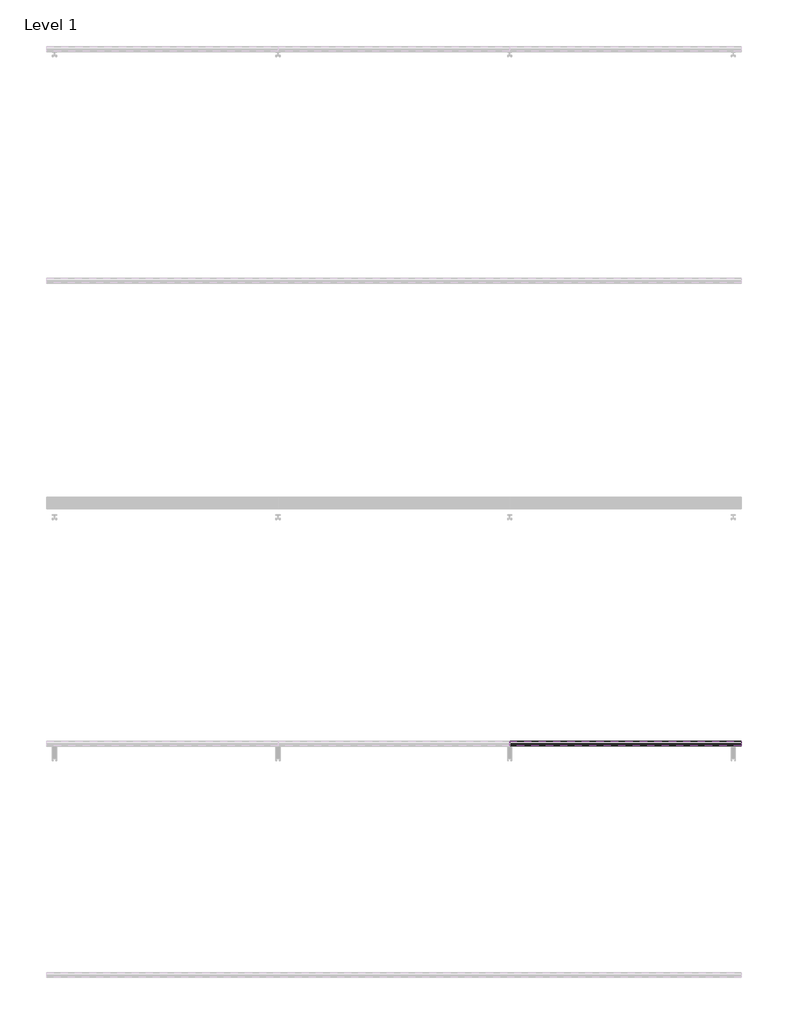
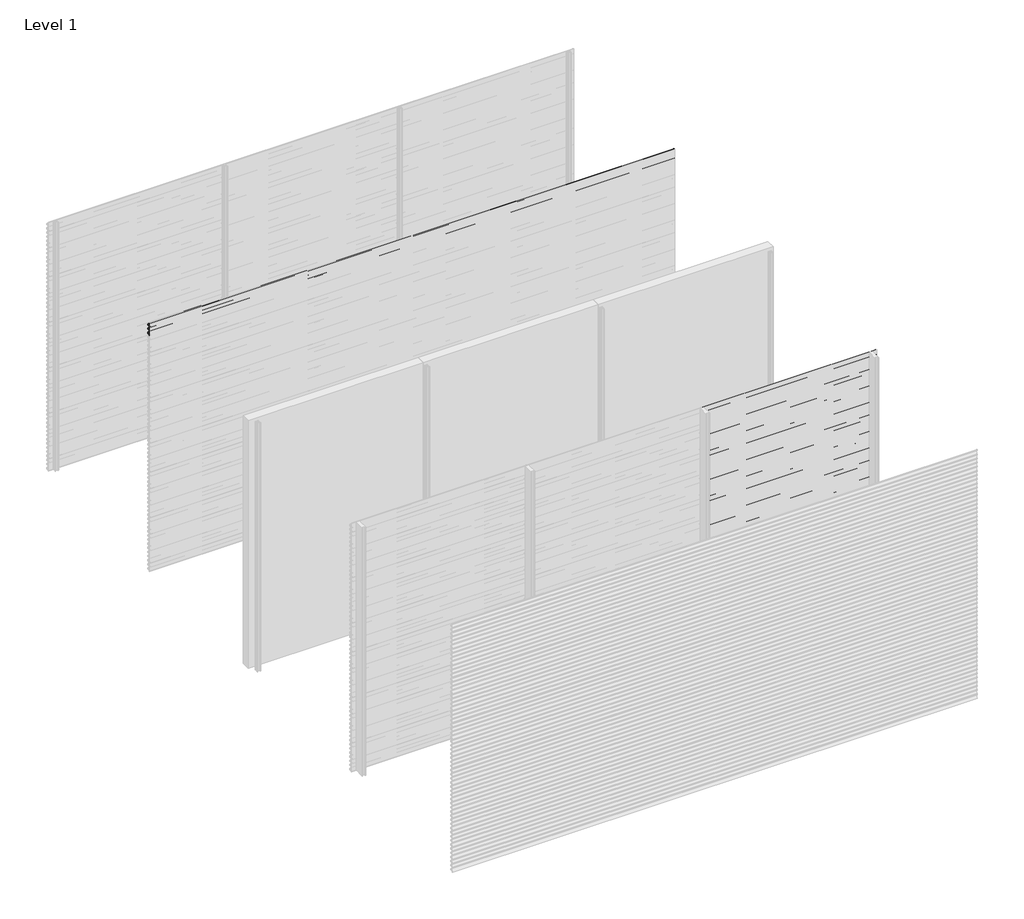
# One storey, part 9 of 38: 66 proxies.
"""IFC4 building model written with IfcOpenShell, lengths in millimetres."""

from ifc_helpers import new_model, si_unit, frame, origin, place, context, project, spatial, polyline, outline, extrude, element, save

model = new_model("IFC4")

# Units and contexts
model_context = context("Model", 3, world=origin())
ifc_project = project(units=[si_unit("LENGTHUNIT", "METRE", prefix="MILLI")], contexts=[model_context])

# Site, building, storey
site = spatial("IfcSite", under=ifc_project)
building = spatial("IfcBuilding", under=site)
storey = spatial("IfcBuildingStorey", under=building, Name="Level 1", Elevation=0.0)

# Proxies
placement = place(None, origin())
element("IfcBuildingElementProxy", 1, Name="Wall Sweeps", at=placement, inside=storey, context=model_context, shape_type="SweptSolid", body=[
    extrude(outline(polyline([(-43996.75, 3000.0), (-43996.75, 2989.19656), (-43974.6057113, 2976.4115489), (-43957.0, 2959.0472005), (-43957.0, 2944.0472005), (-43958.3, 2945.0268207), (-43958.3, 2958.5034593), (-43969.4914725, 2969.541504), (-43994.2797376, 2940.0), (-43995.9767671, 2940.0), (-43970.4200307, 2970.4573323), (-43975.3999793, 2975.3690091), (-43998.0, 2988.4171371), (-43998.0, 3000.0), (-43996.75, 3000.0)])), frame((0.0, 0.0, 0.0), z_axis=(1.0, 0.0, 0.0), x_axis=(0.0, 1.0, 0.0)), (0.0, 0.0, 1.0), 6000.0),
])
element("IfcBuildingElementProxy", 2, Name="Wall Sweeps", at=placement, inside=storey, context=model_context, shape_type="SweptSolid", body=[
    extrude(outline(polyline([(-43996.75, 2950.0), (-43996.75, 2939.19656), (-43974.6057113, 2926.4115489), (-43957.0, 2909.0472005), (-43957.0, 2894.0472005), (-43958.3, 2895.0268207), (-43958.3, 2908.5034593), (-43969.4914725, 2919.541504), (-43994.2797376, 2890.0), (-43995.9767671, 2890.0), (-43970.4200307, 2920.4573323), (-43975.3999793, 2925.3690091), (-43998.0, 2938.4171371), (-43998.0, 2950.0), (-43996.75, 2950.0)])), frame((0.0, 0.0, 0.0), z_axis=(1.0, 0.0, 0.0), x_axis=(0.0, 1.0, 0.0)), (0.0, 0.0, 1.0), 6000.0),
])
element("IfcBuildingElementProxy", 3, Name="Wall Sweeps", at=placement, inside=storey, context=model_context, shape_type="SweptSolid", body=[
    extrude(outline(polyline([(-43996.75, 2900.0), (-43996.75, 2889.19656), (-43974.6057113, 2876.4115489), (-43957.0, 2859.0472005), (-43957.0, 2844.0472005), (-43958.3, 2845.0268207), (-43958.3, 2858.5034593), (-43969.4914725, 2869.541504), (-43994.2797376, 2840.0), (-43995.9767671, 2840.0), (-43970.4200307, 2870.4573323), (-43975.3999793, 2875.3690091), (-43998.0, 2888.4171371), (-43998.0, 2900.0), (-43996.75, 2900.0)])), frame((0.0, 0.0, 0.0), z_axis=(1.0, 0.0, 0.0), x_axis=(0.0, 1.0, 0.0)), (0.0, 0.0, 1.0), 6000.0),
])
element("IfcBuildingElementProxy", 4, Name="Wall Sweeps", at=placement, inside=storey, context=model_context, shape_type="SweptSolid", body=[
    extrude(outline(polyline([(-47996.75, 150.0), (-47996.75, 139.19656), (-47974.6057113, 126.4115489), (-47957.0, 109.0472005), (-47957.0, 94.0472005), (-47958.3, 95.0268207), (-47958.3, 108.5034593), (-47969.4914725, 119.541504), (-47994.2797376, 90.0), (-47995.9767671, 90.0), (-47970.4200307, 120.4573323), (-47975.3999793, 125.3690091), (-47998.0, 138.4171371), (-47998.0, 150.0), (-47996.75, 150.0)])), frame((2000.0, 0.0, 0.0), z_axis=(1.0, 0.0, 0.0), x_axis=(0.0, 1.0, 0.0)), (0.0, 0.0, 1.0), 2000.0),
])
element("IfcBuildingElementProxy", 5, Name="Wall Sweeps", at=placement, inside=storey, context=model_context, shape_type="SweptSolid", body=[
    extrude(outline(polyline([(-47996.75, 100.0), (-47996.75, 89.19656), (-47974.6057113, 76.4115489), (-47957.0, 59.0472005), (-47957.0, 44.0472005), (-47958.3, 45.0268207), (-47958.3, 58.5034593), (-47969.4914725, 69.541504), (-47994.2797376, 40.0), (-47995.9767671, 40.0), (-47970.4200307, 70.4573323), (-47975.3999793, 75.3690091), (-47998.0, 88.4171371), (-47998.0, 100.0), (-47996.75, 100.0)])), frame((2000.0, 0.0, 0.0), z_axis=(1.0, 0.0, 0.0), x_axis=(0.0, 1.0, 0.0)), (0.0, 0.0, 1.0), 2000.0),
])
element("IfcBuildingElementProxy", 6, Name="Wall Sweeps", at=placement, inside=storey, context=model_context, shape_type="SweptSolid", body=[
    extrude(outline(polyline([(-47996.75, 50.0), (-47996.75, 39.19656), (-47974.6057113, 26.4115489), (-47957.0, 9.0472005), (-47957.0, -5.9527995), (-47958.3, -4.9731793), (-47958.3, 8.5034593), (-47969.4914725, 19.541504), (-47994.2797376, -10.0), (-47995.9767671, -10.0), (-47970.4200307, 20.4573323), (-47975.3999793, 25.3690091), (-47998.0, 38.4171371), (-47998.0, 50.0), (-47996.75, 50.0)])), frame((2000.0, 0.0, 0.0), z_axis=(1.0, 0.0, 0.0), x_axis=(0.0, 1.0, 0.0)), (0.0, 0.0, 1.0), 2000.0),
])
element("IfcBuildingElementProxy", 7, Name="Wall Sweeps", at=placement, inside=storey, context=model_context, shape_type="SweptSolid", body=[
    extrude(outline(polyline([(-47996.75, 3000.0), (-47996.75, 2989.19656), (-47974.6057113, 2976.4115489), (-47957.0, 2959.0472005), (-47957.0, 2944.0472005), (-47958.3, 2945.0268207), (-47958.3, 2958.5034593), (-47969.4914725, 2969.541504), (-47994.2797376, 2940.0), (-47995.9767671, 2940.0), (-47970.4200307, 2970.4573323), (-47975.3999793, 2975.3690091), (-47998.0, 2988.4171371), (-47998.0, 3000.0), (-47996.75, 3000.0)])), frame((4000.0, 0.0, 0.0), z_axis=(1.0, 0.0, 0.0), x_axis=(0.0, 1.0, 0.0)), (0.0, 0.0, 1.0), 2000.0),
])
element("IfcBuildingElementProxy", 8, Name="Wall Sweeps", at=placement, inside=storey, context=model_context, shape_type="SweptSolid", body=[
    extrude(outline(polyline([(-47996.75, 2950.0), (-47996.75, 2939.19656), (-47974.6057113, 2926.4115489), (-47957.0, 2909.0472005), (-47957.0, 2894.0472005), (-47958.3, 2895.0268207), (-47958.3, 2908.5034593), (-47969.4914725, 2919.541504), (-47994.2797376, 2890.0), (-47995.9767671, 2890.0), (-47970.4200307, 2920.4573323), (-47975.3999793, 2925.3690091), (-47998.0, 2938.4171371), (-47998.0, 2950.0), (-47996.75, 2950.0)])), frame((4000.0, 0.0, 0.0), z_axis=(1.0, 0.0, 0.0), x_axis=(0.0, 1.0, 0.0)), (0.0, 0.0, 1.0), 2000.0),
])
element("IfcBuildingElementProxy", 9, Name="Wall Sweeps", at=placement, inside=storey, context=model_context, shape_type="SweptSolid", body=[
    extrude(outline(polyline([(-47996.75, 2900.0), (-47996.75, 2889.19656), (-47974.6057113, 2876.4115489), (-47957.0, 2859.0472005), (-47957.0, 2844.0472005), (-47958.3, 2845.0268207), (-47958.3, 2858.5034593), (-47969.4914725, 2869.541504), (-47994.2797376, 2840.0), (-47995.9767671, 2840.0), (-47970.4200307, 2870.4573323), (-47975.3999793, 2875.3690091), (-47998.0, 2888.4171371), (-47998.0, 2900.0), (-47996.75, 2900.0)])), frame((4000.0, 0.0, 0.0), z_axis=(1.0, 0.0, 0.0), x_axis=(0.0, 1.0, 0.0)), (0.0, 0.0, 1.0), 2000.0),
])
element("IfcBuildingElementProxy", 10, Name="Wall Sweeps", at=placement, inside=storey, context=model_context, shape_type="SweptSolid", body=[
    extrude(outline(polyline([(-47996.75, 2850.0), (-47996.75, 2839.19656), (-47974.6057113, 2826.4115489), (-47957.0, 2809.0472005), (-47957.0, 2794.0472005), (-47958.3, 2795.0268207), (-47958.3, 2808.5034593), (-47969.4914725, 2819.541504), (-47994.2797376, 2790.0), (-47995.9767671, 2790.0), (-47970.4200307, 2820.4573323), (-47975.3999793, 2825.3690091), (-47998.0, 2838.4171371), (-47998.0, 2850.0), (-47996.75, 2850.0)])), frame((4000.0, 0.0, 0.0), z_axis=(1.0, 0.0, 0.0), x_axis=(0.0, 1.0, 0.0)), (0.0, 0.0, 1.0), 2000.0),
])
element("IfcBuildingElementProxy", 11, Name="Wall Sweeps", at=placement, inside=storey, context=model_context, shape_type="SweptSolid", body=[
    extrude(outline(polyline([(-47996.75, 2800.0), (-47996.75, 2789.19656), (-47974.6057113, 2776.4115489), (-47957.0, 2759.0472005), (-47957.0, 2744.0472005), (-47958.3, 2745.0268207), (-47958.3, 2758.5034593), (-47969.4914725, 2769.541504), (-47994.2797376, 2740.0), (-47995.9767671, 2740.0), (-47970.4200307, 2770.4573323), (-47975.3999793, 2775.3690091), (-47998.0, 2788.4171371), (-47998.0, 2800.0), (-47996.75, 2800.0)])), frame((4000.0, 0.0, 0.0), z_axis=(1.0, 0.0, 0.0), x_axis=(0.0, 1.0, 0.0)), (0.0, 0.0, 1.0), 2000.0),
])
element("IfcBuildingElementProxy", 12, Name="Wall Sweeps", at=placement, inside=storey, context=model_context, shape_type="SweptSolid", body=[
    extrude(outline(polyline([(-47996.75, 2750.0), (-47996.75, 2739.19656), (-47974.6057113, 2726.4115489), (-47957.0, 2709.0472005), (-47957.0, 2694.0472005), (-47958.3, 2695.0268207), (-47958.3, 2708.5034593), (-47969.4914725, 2719.541504), (-47994.2797376, 2690.0), (-47995.9767671, 2690.0), (-47970.4200307, 2720.4573323), (-47975.3999793, 2725.3690091), (-47998.0, 2738.4171371), (-47998.0, 2750.0), (-47996.75, 2750.0)])), frame((4000.0, 0.0, 0.0), z_axis=(1.0, 0.0, 0.0), x_axis=(0.0, 1.0, 0.0)), (0.0, 0.0, 1.0), 2000.0),
])
element("IfcBuildingElementProxy", 13, Name="Wall Sweeps", at=placement, inside=storey, context=model_context, shape_type="SweptSolid", body=[
    extrude(outline(polyline([(-47996.75, 2700.0), (-47996.75, 2689.19656), (-47974.6057113, 2676.4115489), (-47957.0, 2659.0472005), (-47957.0, 2644.0472005), (-47958.3, 2645.0268207), (-47958.3, 2658.5034593), (-47969.4914725, 2669.541504), (-47994.2797376, 2640.0), (-47995.9767671, 2640.0), (-47970.4200307, 2670.4573323), (-47975.3999793, 2675.3690091), (-47998.0, 2688.4171371), (-47998.0, 2700.0), (-47996.75, 2700.0)])), frame((4000.0, 0.0, 0.0), z_axis=(1.0, 0.0, 0.0), x_axis=(0.0, 1.0, 0.0)), (0.0, 0.0, 1.0), 2000.0),
])
element("IfcBuildingElementProxy", 14, Name="Wall Sweeps", at=placement, inside=storey, context=model_context, shape_type="SweptSolid", body=[
    extrude(outline(polyline([(-47996.75, 2650.0), (-47996.75, 2639.19656), (-47974.6057113, 2626.4115489), (-47957.0, 2609.0472005), (-47957.0, 2594.0472005), (-47958.3, 2595.0268207), (-47958.3, 2608.5034593), (-47969.4914725, 2619.541504), (-47994.2797376, 2590.0), (-47995.9767671, 2590.0), (-47970.4200307, 2620.4573323), (-47975.3999793, 2625.3690091), (-47998.0, 2638.4171371), (-47998.0, 2650.0), (-47996.75, 2650.0)])), frame((4000.0, 0.0, 0.0), z_axis=(1.0, 0.0, 0.0), x_axis=(0.0, 1.0, 0.0)), (0.0, 0.0, 1.0), 2000.0),
])
element("IfcBuildingElementProxy", 15, Name="Wall Sweeps", at=placement, inside=storey, context=model_context, shape_type="SweptSolid", body=[
    extrude(outline(polyline([(-47996.75, 2600.0), (-47996.75, 2589.19656), (-47974.6057113, 2576.4115489), (-47957.0, 2559.0472005), (-47957.0, 2544.0472005), (-47958.3, 2545.0268207), (-47958.3, 2558.5034593), (-47969.4914725, 2569.541504), (-47994.2797376, 2540.0), (-47995.9767671, 2540.0), (-47970.4200307, 2570.4573323), (-47975.3999793, 2575.3690091), (-47998.0, 2588.4171371), (-47998.0, 2600.0), (-47996.75, 2600.0)])), frame((4000.0, 0.0, 0.0), z_axis=(1.0, 0.0, 0.0), x_axis=(0.0, 1.0, 0.0)), (0.0, 0.0, 1.0), 2000.0),
])
element("IfcBuildingElementProxy", 16, Name="Wall Sweeps", at=placement, inside=storey, context=model_context, shape_type="SweptSolid", body=[
    extrude(outline(polyline([(-47996.75, 2550.0), (-47996.75, 2539.19656), (-47974.6057113, 2526.4115489), (-47957.0, 2509.0472005), (-47957.0, 2494.0472005), (-47958.3, 2495.0268207), (-47958.3, 2508.5034593), (-47969.4914725, 2519.541504), (-47994.2797376, 2490.0), (-47995.9767671, 2490.0), (-47970.4200307, 2520.4573323), (-47975.3999793, 2525.3690091), (-47998.0, 2538.4171371), (-47998.0, 2550.0), (-47996.75, 2550.0)])), frame((4000.0, 0.0, 0.0), z_axis=(1.0, 0.0, 0.0), x_axis=(0.0, 1.0, 0.0)), (0.0, 0.0, 1.0), 2000.0),
])
element("IfcBuildingElementProxy", 17, Name="Wall Sweeps", at=placement, inside=storey, context=model_context, shape_type="SweptSolid", body=[
    extrude(outline(polyline([(-47996.75, 2500.0), (-47996.75, 2489.19656), (-47974.6057113, 2476.4115489), (-47957.0, 2459.0472005), (-47957.0, 2444.0472005), (-47958.3, 2445.0268207), (-47958.3, 2458.5034593), (-47969.4914725, 2469.541504), (-47994.2797376, 2440.0), (-47995.9767671, 2440.0), (-47970.4200307, 2470.4573323), (-47975.3999793, 2475.3690091), (-47998.0, 2488.4171371), (-47998.0, 2500.0), (-47996.75, 2500.0)])), frame((4000.0, 0.0, 0.0), z_axis=(1.0, 0.0, 0.0), x_axis=(0.0, 1.0, 0.0)), (0.0, 0.0, 1.0), 2000.0),
])
element("IfcBuildingElementProxy", 18, Name="Wall Sweeps", at=placement, inside=storey, context=model_context, shape_type="SweptSolid", body=[
    extrude(outline(polyline([(-47996.75, 2450.0), (-47996.75, 2439.19656), (-47974.6057113, 2426.4115489), (-47957.0, 2409.0472005), (-47957.0, 2394.0472005), (-47958.3, 2395.0268207), (-47958.3, 2408.5034593), (-47969.4914725, 2419.541504), (-47994.2797376, 2390.0), (-47995.9767671, 2390.0), (-47970.4200307, 2420.4573323), (-47975.3999793, 2425.3690091), (-47998.0, 2438.4171371), (-47998.0, 2450.0), (-47996.75, 2450.0)])), frame((4000.0, 0.0, 0.0), z_axis=(1.0, 0.0, 0.0), x_axis=(0.0, 1.0, 0.0)), (0.0, 0.0, 1.0), 2000.0),
])
element("IfcBuildingElementProxy", 19, Name="Wall Sweeps", at=placement, inside=storey, context=model_context, shape_type="SweptSolid", body=[
    extrude(outline(polyline([(-47996.75, 2400.0), (-47996.75, 2389.19656), (-47974.6057113, 2376.4115489), (-47957.0, 2359.0472005), (-47957.0, 2344.0472005), (-47958.3, 2345.0268207), (-47958.3, 2358.5034593), (-47969.4914725, 2369.541504), (-47994.2797376, 2340.0), (-47995.9767671, 2340.0), (-47970.4200307, 2370.4573323), (-47975.3999793, 2375.3690091), (-47998.0, 2388.4171371), (-47998.0, 2400.0), (-47996.75, 2400.0)])), frame((4000.0, 0.0, 0.0), z_axis=(1.0, 0.0, 0.0), x_axis=(0.0, 1.0, 0.0)), (0.0, 0.0, 1.0), 2000.0),
])
element("IfcBuildingElementProxy", 20, Name="Wall Sweeps", at=placement, inside=storey, context=model_context, shape_type="SweptSolid", body=[
    extrude(outline(polyline([(-47996.75, 2350.0), (-47996.75, 2339.19656), (-47974.6057113, 2326.4115489), (-47957.0, 2309.0472005), (-47957.0, 2294.0472005), (-47958.3, 2295.0268207), (-47958.3, 2308.5034593), (-47969.4914725, 2319.541504), (-47994.2797376, 2290.0), (-47995.9767671, 2290.0), (-47970.4200307, 2320.4573323), (-47975.3999793, 2325.3690091), (-47998.0, 2338.4171371), (-47998.0, 2350.0), (-47996.75, 2350.0)])), frame((4000.0, 0.0, 0.0), z_axis=(1.0, 0.0, 0.0), x_axis=(0.0, 1.0, 0.0)), (0.0, 0.0, 1.0), 2000.0),
])
element("IfcBuildingElementProxy", 21, Name="Wall Sweeps", at=placement, inside=storey, context=model_context, shape_type="SweptSolid", body=[
    extrude(outline(polyline([(-47996.75, 2300.0), (-47996.75, 2289.19656), (-47974.6057113, 2276.4115489), (-47957.0, 2259.0472005), (-47957.0, 2244.0472005), (-47958.3, 2245.0268207), (-47958.3, 2258.5034593), (-47969.4914725, 2269.541504), (-47994.2797376, 2240.0), (-47995.9767671, 2240.0), (-47970.4200307, 2270.4573323), (-47975.3999793, 2275.3690091), (-47998.0, 2288.4171371), (-47998.0, 2300.0), (-47996.75, 2300.0)])), frame((4000.0, 0.0, 0.0), z_axis=(1.0, 0.0, 0.0), x_axis=(0.0, 1.0, 0.0)), (0.0, 0.0, 1.0), 2000.0),
])
element("IfcBuildingElementProxy", 22, Name="Wall Sweeps", at=placement, inside=storey, context=model_context, shape_type="SweptSolid", body=[
    extrude(outline(polyline([(-47996.75, 2250.0), (-47996.75, 2239.19656), (-47974.6057113, 2226.4115489), (-47957.0, 2209.0472005), (-47957.0, 2194.0472005), (-47958.3, 2195.0268207), (-47958.3, 2208.5034593), (-47969.4914725, 2219.541504), (-47994.2797376, 2190.0), (-47995.9767671, 2190.0), (-47970.4200307, 2220.4573323), (-47975.3999793, 2225.3690091), (-47998.0, 2238.4171371), (-47998.0, 2250.0), (-47996.75, 2250.0)])), frame((4000.0, 0.0, 0.0), z_axis=(1.0, 0.0, 0.0), x_axis=(0.0, 1.0, 0.0)), (0.0, 0.0, 1.0), 2000.0),
])
element("IfcBuildingElementProxy", 23, Name="Wall Sweeps", at=placement, inside=storey, context=model_context, shape_type="SweptSolid", body=[
    extrude(outline(polyline([(-47996.75, 2200.0), (-47996.75, 2189.19656), (-47974.6057113, 2176.4115489), (-47957.0, 2159.0472005), (-47957.0, 2144.0472005), (-47958.3, 2145.0268207), (-47958.3, 2158.5034593), (-47969.4914725, 2169.541504), (-47994.2797376, 2140.0), (-47995.9767671, 2140.0), (-47970.4200307, 2170.4573323), (-47975.3999793, 2175.3690091), (-47998.0, 2188.4171371), (-47998.0, 2200.0), (-47996.75, 2200.0)])), frame((4000.0, 0.0, 0.0), z_axis=(1.0, 0.0, 0.0), x_axis=(0.0, 1.0, 0.0)), (0.0, 0.0, 1.0), 2000.0),
])
element("IfcBuildingElementProxy", 24, Name="Wall Sweeps", at=placement, inside=storey, context=model_context, shape_type="SweptSolid", body=[
    extrude(outline(polyline([(-47996.75, 2150.0), (-47996.75, 2139.19656), (-47974.6057113, 2126.4115489), (-47957.0, 2109.0472005), (-47957.0, 2094.0472005), (-47958.3, 2095.0268207), (-47958.3, 2108.5034593), (-47969.4914725, 2119.541504), (-47994.2797376, 2090.0), (-47995.9767671, 2090.0), (-47970.4200307, 2120.4573323), (-47975.3999793, 2125.3690091), (-47998.0, 2138.4171371), (-47998.0, 2150.0), (-47996.75, 2150.0)])), frame((4000.0, 0.0, 0.0), z_axis=(1.0, 0.0, 0.0), x_axis=(0.0, 1.0, 0.0)), (0.0, 0.0, 1.0), 2000.0),
])
element("IfcBuildingElementProxy", 25, Name="Wall Sweeps", at=placement, inside=storey, context=model_context, shape_type="SweptSolid", body=[
    extrude(outline(polyline([(-47996.75, 2100.0), (-47996.75, 2089.19656), (-47974.6057113, 2076.4115489), (-47957.0, 2059.0472005), (-47957.0, 2044.0472005), (-47958.3, 2045.0268207), (-47958.3, 2058.5034593), (-47969.4914725, 2069.541504), (-47994.2797376, 2040.0), (-47995.9767671, 2040.0), (-47970.4200307, 2070.4573323), (-47975.3999793, 2075.3690091), (-47998.0, 2088.4171371), (-47998.0, 2100.0), (-47996.75, 2100.0)])), frame((4000.0, 0.0, 0.0), z_axis=(1.0, 0.0, 0.0), x_axis=(0.0, 1.0, 0.0)), (0.0, 0.0, 1.0), 2000.0),
])
element("IfcBuildingElementProxy", 26, Name="Wall Sweeps", at=placement, inside=storey, context=model_context, shape_type="SweptSolid", body=[
    extrude(outline(polyline([(-47996.75, 2050.0), (-47996.75, 2039.19656), (-47974.6057113, 2026.4115489), (-47957.0, 2009.0472005), (-47957.0, 1994.0472005), (-47958.3, 1995.0268207), (-47958.3, 2008.5034593), (-47969.4914725, 2019.541504), (-47994.2797376, 1990.0), (-47995.9767671, 1990.0), (-47970.4200307, 2020.4573323), (-47975.3999793, 2025.3690091), (-47998.0, 2038.4171371), (-47998.0, 2050.0), (-47996.75, 2050.0)])), frame((4000.0, 0.0, 0.0), z_axis=(1.0, 0.0, 0.0), x_axis=(0.0, 1.0, 0.0)), (0.0, 0.0, 1.0), 2000.0),
])
element("IfcBuildingElementProxy", 27, Name="Wall Sweeps", at=placement, inside=storey, context=model_context, shape_type="SweptSolid", body=[
    extrude(outline(polyline([(-47996.75, 2000.0), (-47996.75, 1989.19656), (-47974.6057113, 1976.4115489), (-47957.0, 1959.0472005), (-47957.0, 1944.0472005), (-47958.3, 1945.0268207), (-47958.3, 1958.5034593), (-47969.4914725, 1969.541504), (-47994.2797376, 1940.0), (-47995.9767671, 1940.0), (-47970.4200307, 1970.4573323), (-47975.3999793, 1975.3690091), (-47998.0, 1988.4171371), (-47998.0, 2000.0), (-47996.75, 2000.0)])), frame((4000.0, 0.0, 0.0), z_axis=(1.0, 0.0, 0.0), x_axis=(0.0, 1.0, 0.0)), (0.0, 0.0, 1.0), 2000.0),
])
element("IfcBuildingElementProxy", 28, Name="Wall Sweeps", at=placement, inside=storey, context=model_context, shape_type="SweptSolid", body=[
    extrude(outline(polyline([(-47996.75, 1950.0), (-47996.75, 1939.19656), (-47974.6057113, 1926.4115489), (-47957.0, 1909.0472005), (-47957.0, 1894.0472005), (-47958.3, 1895.0268207), (-47958.3, 1908.5034593), (-47969.4914725, 1919.541504), (-47994.2797376, 1890.0), (-47995.9767671, 1890.0), (-47970.4200307, 1920.4573323), (-47975.3999793, 1925.3690091), (-47998.0, 1938.4171371), (-47998.0, 1950.0), (-47996.75, 1950.0)])), frame((4000.0, 0.0, 0.0), z_axis=(1.0, 0.0, 0.0), x_axis=(0.0, 1.0, 0.0)), (0.0, 0.0, 1.0), 2000.0),
])
element("IfcBuildingElementProxy", 29, Name="Wall Sweeps", at=placement, inside=storey, context=model_context, shape_type="SweptSolid", body=[
    extrude(outline(polyline([(-47996.75, 1900.0), (-47996.75, 1889.19656), (-47974.6057113, 1876.4115489), (-47957.0, 1859.0472005), (-47957.0, 1844.0472005), (-47958.3, 1845.0268207), (-47958.3, 1858.5034593), (-47969.4914725, 1869.541504), (-47994.2797376, 1840.0), (-47995.9767671, 1840.0), (-47970.4200307, 1870.4573323), (-47975.3999793, 1875.3690091), (-47998.0, 1888.4171371), (-47998.0, 1900.0), (-47996.75, 1900.0)])), frame((4000.0, 0.0, 0.0), z_axis=(1.0, 0.0, 0.0), x_axis=(0.0, 1.0, 0.0)), (0.0, 0.0, 1.0), 2000.0),
])
element("IfcBuildingElementProxy", 30, Name="Wall Sweeps", at=placement, inside=storey, context=model_context, shape_type="SweptSolid", body=[
    extrude(outline(polyline([(-47996.75, 1850.0), (-47996.75, 1839.19656), (-47974.6057113, 1826.4115489), (-47957.0, 1809.0472005), (-47957.0, 1794.0472005), (-47958.3, 1795.0268207), (-47958.3, 1808.5034593), (-47969.4914725, 1819.541504), (-47994.2797376, 1790.0), (-47995.9767671, 1790.0), (-47970.4200307, 1820.4573323), (-47975.3999793, 1825.3690091), (-47998.0, 1838.4171371), (-47998.0, 1850.0), (-47996.75, 1850.0)])), frame((4000.0, 0.0, 0.0), z_axis=(1.0, 0.0, 0.0), x_axis=(0.0, 1.0, 0.0)), (0.0, 0.0, 1.0), 2000.0),
])
element("IfcBuildingElementProxy", 31, Name="Wall Sweeps", at=placement, inside=storey, context=model_context, shape_type="SweptSolid", body=[
    extrude(outline(polyline([(-47996.75, 1800.0), (-47996.75, 1789.19656), (-47974.6057113, 1776.4115489), (-47957.0, 1759.0472005), (-47957.0, 1744.0472005), (-47958.3, 1745.0268207), (-47958.3, 1758.5034593), (-47969.4914725, 1769.541504), (-47994.2797376, 1740.0), (-47995.9767671, 1740.0), (-47970.4200307, 1770.4573323), (-47975.3999793, 1775.3690091), (-47998.0, 1788.4171371), (-47998.0, 1800.0), (-47996.75, 1800.0)])), frame((4000.0, 0.0, 0.0), z_axis=(1.0, 0.0, 0.0), x_axis=(0.0, 1.0, 0.0)), (0.0, 0.0, 1.0), 2000.0),
])
element("IfcBuildingElementProxy", 32, Name="Wall Sweeps", at=placement, inside=storey, context=model_context, shape_type="SweptSolid", body=[
    extrude(outline(polyline([(-47996.75, 1750.0), (-47996.75, 1739.19656), (-47974.6057113, 1726.4115489), (-47957.0, 1709.0472005), (-47957.0, 1694.0472005), (-47958.3, 1695.0268207), (-47958.3, 1708.5034593), (-47969.4914725, 1719.541504), (-47994.2797376, 1690.0), (-47995.9767671, 1690.0), (-47970.4200307, 1720.4573323), (-47975.3999793, 1725.3690091), (-47998.0, 1738.4171371), (-47998.0, 1750.0), (-47996.75, 1750.0)])), frame((4000.0, 0.0, 0.0), z_axis=(1.0, 0.0, 0.0), x_axis=(0.0, 1.0, 0.0)), (0.0, 0.0, 1.0), 2000.0),
])
element("IfcBuildingElementProxy", 33, Name="Wall Sweeps", at=placement, inside=storey, context=model_context, shape_type="SweptSolid", body=[
    extrude(outline(polyline([(-47996.75, 1700.0), (-47996.75, 1689.19656), (-47974.6057113, 1676.4115489), (-47957.0, 1659.0472005), (-47957.0, 1644.0472005), (-47958.3, 1645.0268207), (-47958.3, 1658.5034593), (-47969.4914725, 1669.541504), (-47994.2797376, 1640.0), (-47995.9767671, 1640.0), (-47970.4200307, 1670.4573323), (-47975.3999793, 1675.3690091), (-47998.0, 1688.4171371), (-47998.0, 1700.0), (-47996.75, 1700.0)])), frame((4000.0, 0.0, 0.0), z_axis=(1.0, 0.0, 0.0), x_axis=(0.0, 1.0, 0.0)), (0.0, 0.0, 1.0), 2000.0),
])
element("IfcBuildingElementProxy", 34, Name="Wall Sweeps", at=placement, inside=storey, context=model_context, shape_type="SweptSolid", body=[
    extrude(outline(polyline([(-47996.75, 1650.0), (-47996.75, 1639.19656), (-47974.6057113, 1626.4115489), (-47957.0, 1609.0472005), (-47957.0, 1594.0472005), (-47958.3, 1595.0268207), (-47958.3, 1608.5034593), (-47969.4914725, 1619.541504), (-47994.2797376, 1590.0), (-47995.9767671, 1590.0), (-47970.4200307, 1620.4573323), (-47975.3999793, 1625.3690091), (-47998.0, 1638.4171371), (-47998.0, 1650.0), (-47996.75, 1650.0)])), frame((4000.0, 0.0, 0.0), z_axis=(1.0, 0.0, 0.0), x_axis=(0.0, 1.0, 0.0)), (0.0, 0.0, 1.0), 2000.0),
])
element("IfcBuildingElementProxy", 35, Name="Wall Sweeps", at=placement, inside=storey, context=model_context, shape_type="SweptSolid", body=[
    extrude(outline(polyline([(-47996.75, 1600.0), (-47996.75, 1589.19656), (-47974.6057113, 1576.4115489), (-47957.0, 1559.0472005), (-47957.0, 1544.0472005), (-47958.3, 1545.0268207), (-47958.3, 1558.5034593), (-47969.4914725, 1569.541504), (-47994.2797376, 1540.0), (-47995.9767671, 1540.0), (-47970.4200307, 1570.4573323), (-47975.3999793, 1575.3690091), (-47998.0, 1588.4171371), (-47998.0, 1600.0), (-47996.75, 1600.0)])), frame((4000.0, 0.0, 0.0), z_axis=(1.0, 0.0, 0.0), x_axis=(0.0, 1.0, 0.0)), (0.0, 0.0, 1.0), 2000.0),
])
element("IfcBuildingElementProxy", 36, Name="Wall Sweeps", at=placement, inside=storey, context=model_context, shape_type="SweptSolid", body=[
    extrude(outline(polyline([(-47996.75, 1550.0), (-47996.75, 1539.19656), (-47974.6057113, 1526.4115489), (-47957.0, 1509.0472005), (-47957.0, 1494.0472005), (-47958.3, 1495.0268207), (-47958.3, 1508.5034593), (-47969.4914725, 1519.541504), (-47994.2797376, 1490.0), (-47995.9767671, 1490.0), (-47970.4200307, 1520.4573323), (-47975.3999793, 1525.3690091), (-47998.0, 1538.4171371), (-47998.0, 1550.0), (-47996.75, 1550.0)])), frame((4000.0, 0.0, 0.0), z_axis=(1.0, 0.0, 0.0), x_axis=(0.0, 1.0, 0.0)), (0.0, 0.0, 1.0), 2000.0),
])
element("IfcBuildingElementProxy", 37, Name="Wall Sweeps", at=placement, inside=storey, context=model_context, shape_type="SweptSolid", body=[
    extrude(outline(polyline([(-47996.75, 1500.0), (-47996.75, 1489.19656), (-47974.6057113, 1476.4115489), (-47957.0, 1459.0472005), (-47957.0, 1444.0472005), (-47958.3, 1445.0268207), (-47958.3, 1458.5034593), (-47969.4914725, 1469.541504), (-47994.2797376, 1440.0), (-47995.9767671, 1440.0), (-47970.4200307, 1470.4573323), (-47975.3999793, 1475.3690091), (-47998.0, 1488.4171371), (-47998.0, 1500.0), (-47996.75, 1500.0)])), frame((4000.0, 0.0, 0.0), z_axis=(1.0, 0.0, 0.0), x_axis=(0.0, 1.0, 0.0)), (0.0, 0.0, 1.0), 2000.0),
])
element("IfcBuildingElementProxy", 38, Name="Wall Sweeps", at=placement, inside=storey, context=model_context, shape_type="SweptSolid", body=[
    extrude(outline(polyline([(-47996.75, 1450.0), (-47996.75, 1439.19656), (-47974.6057113, 1426.4115489), (-47957.0, 1409.0472005), (-47957.0, 1394.0472005), (-47958.3, 1395.0268207), (-47958.3, 1408.5034593), (-47969.4914725, 1419.541504), (-47994.2797376, 1390.0), (-47995.9767671, 1390.0), (-47970.4200307, 1420.4573323), (-47975.3999793, 1425.3690091), (-47998.0, 1438.4171371), (-47998.0, 1450.0), (-47996.75, 1450.0)])), frame((4000.0, 0.0, 0.0), z_axis=(1.0, 0.0, 0.0), x_axis=(0.0, 1.0, 0.0)), (0.0, 0.0, 1.0), 2000.0),
])
element("IfcBuildingElementProxy", 39, Name="Wall Sweeps", at=placement, inside=storey, context=model_context, shape_type="SweptSolid", body=[
    extrude(outline(polyline([(-47996.75, 1400.0), (-47996.75, 1389.19656), (-47974.6057113, 1376.4115489), (-47957.0, 1359.0472005), (-47957.0, 1344.0472005), (-47958.3, 1345.0268207), (-47958.3, 1358.5034593), (-47969.4914725, 1369.541504), (-47994.2797376, 1340.0), (-47995.9767671, 1340.0), (-47970.4200307, 1370.4573323), (-47975.3999793, 1375.3690091), (-47998.0, 1388.4171371), (-47998.0, 1400.0), (-47996.75, 1400.0)])), frame((4000.0, 0.0, 0.0), z_axis=(1.0, 0.0, 0.0), x_axis=(0.0, 1.0, 0.0)), (0.0, 0.0, 1.0), 2000.0),
])
element("IfcBuildingElementProxy", 40, Name="Wall Sweeps", at=placement, inside=storey, context=model_context, shape_type="SweptSolid", body=[
    extrude(outline(polyline([(-47996.75, 1350.0), (-47996.75, 1339.19656), (-47974.6057113, 1326.4115489), (-47957.0, 1309.0472005), (-47957.0, 1294.0472005), (-47958.3, 1295.0268207), (-47958.3, 1308.5034593), (-47969.4914725, 1319.541504), (-47994.2797376, 1290.0), (-47995.9767671, 1290.0), (-47970.4200307, 1320.4573323), (-47975.3999793, 1325.3690091), (-47998.0, 1338.4171371), (-47998.0, 1350.0), (-47996.75, 1350.0)])), frame((4000.0, 0.0, 0.0), z_axis=(1.0, 0.0, 0.0), x_axis=(0.0, 1.0, 0.0)), (0.0, 0.0, 1.0), 2000.0),
])
element("IfcBuildingElementProxy", 41, Name="Wall Sweeps", at=placement, inside=storey, context=model_context, shape_type="SweptSolid", body=[
    extrude(outline(polyline([(-47996.75, 1300.0), (-47996.75, 1289.19656), (-47974.6057113, 1276.4115489), (-47957.0, 1259.0472005), (-47957.0, 1244.0472005), (-47958.3, 1245.0268207), (-47958.3, 1258.5034593), (-47969.4914725, 1269.541504), (-47994.2797376, 1240.0), (-47995.9767671, 1240.0), (-47970.4200307, 1270.4573323), (-47975.3999793, 1275.3690091), (-47998.0, 1288.4171371), (-47998.0, 1300.0), (-47996.75, 1300.0)])), frame((4000.0, 0.0, 0.0), z_axis=(1.0, 0.0, 0.0), x_axis=(0.0, 1.0, 0.0)), (0.0, 0.0, 1.0), 2000.0),
])
element("IfcBuildingElementProxy", 42, Name="Wall Sweeps", at=placement, inside=storey, context=model_context, shape_type="SweptSolid", body=[
    extrude(outline(polyline([(-47996.75, 1250.0), (-47996.75, 1239.19656), (-47974.6057113, 1226.4115489), (-47957.0, 1209.0472005), (-47957.0, 1194.0472005), (-47958.3, 1195.0268207), (-47958.3, 1208.5034593), (-47969.4914725, 1219.541504), (-47994.2797376, 1190.0), (-47995.9767671, 1190.0), (-47970.4200307, 1220.4573323), (-47975.3999793, 1225.3690091), (-47998.0, 1238.4171371), (-47998.0, 1250.0), (-47996.75, 1250.0)])), frame((4000.0, 0.0, 0.0), z_axis=(1.0, 0.0, 0.0), x_axis=(0.0, 1.0, 0.0)), (0.0, 0.0, 1.0), 2000.0),
])
element("IfcBuildingElementProxy", 43, Name="Wall Sweeps", at=placement, inside=storey, context=model_context, shape_type="SweptSolid", body=[
    extrude(outline(polyline([(-47996.75, 1200.0), (-47996.75, 1189.19656), (-47974.6057113, 1176.4115489), (-47957.0, 1159.0472005), (-47957.0, 1144.0472005), (-47958.3, 1145.0268207), (-47958.3, 1158.5034593), (-47969.4914725, 1169.541504), (-47994.2797376, 1140.0), (-47995.9767671, 1140.0), (-47970.4200307, 1170.4573323), (-47975.3999793, 1175.3690091), (-47998.0, 1188.4171371), (-47998.0, 1200.0), (-47996.75, 1200.0)])), frame((4000.0, 0.0, 0.0), z_axis=(1.0, 0.0, 0.0), x_axis=(0.0, 1.0, 0.0)), (0.0, 0.0, 1.0), 2000.0),
])
element("IfcBuildingElementProxy", 44, Name="Wall Sweeps", at=placement, inside=storey, context=model_context, shape_type="SweptSolid", body=[
    extrude(outline(polyline([(-47996.75, 1150.0), (-47996.75, 1139.19656), (-47974.6057113, 1126.4115489), (-47957.0, 1109.0472005), (-47957.0, 1094.0472005), (-47958.3, 1095.0268207), (-47958.3, 1108.5034593), (-47969.4914725, 1119.541504), (-47994.2797376, 1090.0), (-47995.9767671, 1090.0), (-47970.4200307, 1120.4573323), (-47975.3999793, 1125.3690091), (-47998.0, 1138.4171371), (-47998.0, 1150.0), (-47996.75, 1150.0)])), frame((4000.0, 0.0, 0.0), z_axis=(1.0, 0.0, 0.0), x_axis=(0.0, 1.0, 0.0)), (0.0, 0.0, 1.0), 2000.0),
])
element("IfcBuildingElementProxy", 45, Name="Wall Sweeps", at=placement, inside=storey, context=model_context, shape_type="SweptSolid", body=[
    extrude(outline(polyline([(-47996.75, 1100.0), (-47996.75, 1089.19656), (-47974.6057113, 1076.4115489), (-47957.0, 1059.0472005), (-47957.0, 1044.0472005), (-47958.3, 1045.0268207), (-47958.3, 1058.5034593), (-47969.4914725, 1069.541504), (-47994.2797376, 1040.0), (-47995.9767671, 1040.0), (-47970.4200307, 1070.4573323), (-47975.3999793, 1075.3690091), (-47998.0, 1088.4171371), (-47998.0, 1100.0), (-47996.75, 1100.0)])), frame((4000.0, 0.0, 0.0), z_axis=(1.0, 0.0, 0.0), x_axis=(0.0, 1.0, 0.0)), (0.0, 0.0, 1.0), 2000.0),
])
element("IfcBuildingElementProxy", 46, Name="Wall Sweeps", at=placement, inside=storey, context=model_context, shape_type="SweptSolid", body=[
    extrude(outline(polyline([(-47996.75, 1050.0), (-47996.75, 1039.19656), (-47974.6057113, 1026.4115489), (-47957.0, 1009.0472005), (-47957.0, 994.0472005), (-47958.3, 995.0268207), (-47958.3, 1008.5034593), (-47969.4914725, 1019.541504), (-47994.2797376, 990.0), (-47995.9767671, 990.0), (-47970.4200307, 1020.4573323), (-47975.3999793, 1025.3690091), (-47998.0, 1038.4171371), (-47998.0, 1050.0), (-47996.75, 1050.0)])), frame((4000.0, 0.0, 0.0), z_axis=(1.0, 0.0, 0.0), x_axis=(0.0, 1.0, 0.0)), (0.0, 0.0, 1.0), 2000.0),
])
element("IfcBuildingElementProxy", 47, Name="Wall Sweeps", at=placement, inside=storey, context=model_context, shape_type="SweptSolid", body=[
    extrude(outline(polyline([(-47996.75, 1000.0), (-47996.75, 989.19656), (-47974.6057113, 976.4115489), (-47957.0, 959.0472005), (-47957.0, 944.0472005), (-47958.3, 945.0268207), (-47958.3, 958.5034593), (-47969.4914725, 969.541504), (-47994.2797376, 940.0), (-47995.9767671, 940.0), (-47970.4200307, 970.4573323), (-47975.3999793, 975.3690091), (-47998.0, 988.4171371), (-47998.0, 1000.0), (-47996.75, 1000.0)])), frame((4000.0, 0.0, 0.0), z_axis=(1.0, 0.0, 0.0), x_axis=(0.0, 1.0, 0.0)), (0.0, 0.0, 1.0), 2000.0),
])
element("IfcBuildingElementProxy", 48, Name="Wall Sweeps", at=placement, inside=storey, context=model_context, shape_type="SweptSolid", body=[
    extrude(outline(polyline([(-47996.75, 950.0), (-47996.75, 939.19656), (-47974.6057113, 926.4115489), (-47957.0, 909.0472005), (-47957.0, 894.0472005), (-47958.3, 895.0268207), (-47958.3, 908.5034593), (-47969.4914725, 919.541504), (-47994.2797376, 890.0), (-47995.9767671, 890.0), (-47970.4200307, 920.4573323), (-47975.3999793, 925.3690091), (-47998.0, 938.4171371), (-47998.0, 950.0), (-47996.75, 950.0)])), frame((4000.0, 0.0, 0.0), z_axis=(1.0, 0.0, 0.0), x_axis=(0.0, 1.0, 0.0)), (0.0, 0.0, 1.0), 2000.0),
])
element("IfcBuildingElementProxy", 49, Name="Wall Sweeps", at=placement, inside=storey, context=model_context, shape_type="SweptSolid", body=[
    extrude(outline(polyline([(-47996.75, 900.0), (-47996.75, 889.19656), (-47974.6057113, 876.4115489), (-47957.0, 859.0472005), (-47957.0, 844.0472005), (-47958.3, 845.0268207), (-47958.3, 858.5034593), (-47969.4914725, 869.541504), (-47994.2797376, 840.0), (-47995.9767671, 840.0), (-47970.4200307, 870.4573323), (-47975.3999793, 875.3690091), (-47998.0, 888.4171371), (-47998.0, 900.0), (-47996.75, 900.0)])), frame((4000.0, 0.0, 0.0), z_axis=(1.0, 0.0, 0.0), x_axis=(0.0, 1.0, 0.0)), (0.0, 0.0, 1.0), 2000.0),
])
element("IfcBuildingElementProxy", 50, Name="Wall Sweeps", at=placement, inside=storey, context=model_context, shape_type="SweptSolid", body=[
    extrude(outline(polyline([(-47996.75, 850.0), (-47996.75, 839.19656), (-47974.6057113, 826.4115489), (-47957.0, 809.0472005), (-47957.0, 794.0472005), (-47958.3, 795.0268207), (-47958.3, 808.5034593), (-47969.4914725, 819.541504), (-47994.2797376, 790.0), (-47995.9767671, 790.0), (-47970.4200307, 820.4573323), (-47975.3999793, 825.3690091), (-47998.0, 838.4171371), (-47998.0, 850.0), (-47996.75, 850.0)])), frame((4000.0, 0.0, 0.0), z_axis=(1.0, 0.0, 0.0), x_axis=(0.0, 1.0, 0.0)), (0.0, 0.0, 1.0), 2000.0),
])
element("IfcBuildingElementProxy", 51, Name="Wall Sweeps", at=placement, inside=storey, context=model_context, shape_type="SweptSolid", body=[
    extrude(outline(polyline([(-47996.75, 800.0), (-47996.75, 789.19656), (-47974.6057113, 776.4115489), (-47957.0, 759.0472005), (-47957.0, 744.0472005), (-47958.3, 745.0268207), (-47958.3, 758.5034593), (-47969.4914725, 769.541504), (-47994.2797376, 740.0), (-47995.9767671, 740.0), (-47970.4200307, 770.4573323), (-47975.3999793, 775.3690091), (-47998.0, 788.4171371), (-47998.0, 800.0), (-47996.75, 800.0)])), frame((4000.0, 0.0, 0.0), z_axis=(1.0, 0.0, 0.0), x_axis=(0.0, 1.0, 0.0)), (0.0, 0.0, 1.0), 2000.0),
])
element("IfcBuildingElementProxy", 52, Name="Wall Sweeps", at=placement, inside=storey, context=model_context, shape_type="SweptSolid", body=[
    extrude(outline(polyline([(-47996.75, 750.0), (-47996.75, 739.19656), (-47974.6057113, 726.4115489), (-47957.0, 709.0472005), (-47957.0, 694.0472005), (-47958.3, 695.0268207), (-47958.3, 708.5034593), (-47969.4914725, 719.541504), (-47994.2797376, 690.0), (-47995.9767671, 690.0), (-47970.4200307, 720.4573323), (-47975.3999793, 725.3690091), (-47998.0, 738.4171371), (-47998.0, 750.0), (-47996.75, 750.0)])), frame((4000.0, 0.0, 0.0), z_axis=(1.0, 0.0, 0.0), x_axis=(0.0, 1.0, 0.0)), (0.0, 0.0, 1.0), 2000.0),
])
element("IfcBuildingElementProxy", 53, Name="Wall Sweeps", at=placement, inside=storey, context=model_context, shape_type="SweptSolid", body=[
    extrude(outline(polyline([(-47996.75, 700.0), (-47996.75, 689.19656), (-47974.6057113, 676.4115489), (-47957.0, 659.0472005), (-47957.0, 644.0472005), (-47958.3, 645.0268207), (-47958.3, 658.5034593), (-47969.4914725, 669.541504), (-47994.2797376, 640.0), (-47995.9767671, 640.0), (-47970.4200307, 670.4573323), (-47975.3999793, 675.3690091), (-47998.0, 688.4171371), (-47998.0, 700.0), (-47996.75, 700.0)])), frame((4000.0, 0.0, 0.0), z_axis=(1.0, 0.0, 0.0), x_axis=(0.0, 1.0, 0.0)), (0.0, 0.0, 1.0), 2000.0),
])
element("IfcBuildingElementProxy", 54, Name="Wall Sweeps", at=placement, inside=storey, context=model_context, shape_type="SweptSolid", body=[
    extrude(outline(polyline([(-47996.75, 650.0), (-47996.75, 639.19656), (-47974.6057113, 626.4115489), (-47957.0, 609.0472005), (-47957.0, 594.0472005), (-47958.3, 595.0268207), (-47958.3, 608.5034593), (-47969.4914725, 619.541504), (-47994.2797376, 590.0), (-47995.9767671, 590.0), (-47970.4200307, 620.4573323), (-47975.3999793, 625.3690091), (-47998.0, 638.4171371), (-47998.0, 650.0), (-47996.75, 650.0)])), frame((4000.0, 0.0, 0.0), z_axis=(1.0, 0.0, 0.0), x_axis=(0.0, 1.0, 0.0)), (0.0, 0.0, 1.0), 2000.0),
])
element("IfcBuildingElementProxy", 55, Name="Wall Sweeps", at=placement, inside=storey, context=model_context, shape_type="SweptSolid", body=[
    extrude(outline(polyline([(-47996.75, 600.0), (-47996.75, 589.19656), (-47974.6057113, 576.4115489), (-47957.0, 559.0472005), (-47957.0, 544.0472005), (-47958.3, 545.0268207), (-47958.3, 558.5034593), (-47969.4914725, 569.541504), (-47994.2797376, 540.0), (-47995.9767671, 540.0), (-47970.4200307, 570.4573323), (-47975.3999793, 575.3690091), (-47998.0, 588.4171371), (-47998.0, 600.0), (-47996.75, 600.0)])), frame((4000.0, 0.0, 0.0), z_axis=(1.0, 0.0, 0.0), x_axis=(0.0, 1.0, 0.0)), (0.0, 0.0, 1.0), 2000.0),
])
element("IfcBuildingElementProxy", 56, Name="Wall Sweeps", at=placement, inside=storey, context=model_context, shape_type="SweptSolid", body=[
    extrude(outline(polyline([(-47996.75, 550.0), (-47996.75, 539.19656), (-47974.6057113, 526.4115489), (-47957.0, 509.0472005), (-47957.0, 494.0472005), (-47958.3, 495.0268207), (-47958.3, 508.5034593), (-47969.4914725, 519.541504), (-47994.2797376, 490.0), (-47995.9767671, 490.0), (-47970.4200307, 520.4573323), (-47975.3999793, 525.3690091), (-47998.0, 538.4171371), (-47998.0, 550.0), (-47996.75, 550.0)])), frame((4000.0, 0.0, 0.0), z_axis=(1.0, 0.0, 0.0), x_axis=(0.0, 1.0, 0.0)), (0.0, 0.0, 1.0), 2000.0),
])
element("IfcBuildingElementProxy", 57, Name="Wall Sweeps", at=placement, inside=storey, context=model_context, shape_type="SweptSolid", body=[
    extrude(outline(polyline([(-47996.75, 500.0), (-47996.75, 489.19656), (-47974.6057113, 476.4115489), (-47957.0, 459.0472005), (-47957.0, 444.0472005), (-47958.3, 445.0268207), (-47958.3, 458.5034593), (-47969.4914725, 469.541504), (-47994.2797376, 440.0), (-47995.9767671, 440.0), (-47970.4200307, 470.4573323), (-47975.3999793, 475.3690091), (-47998.0, 488.4171371), (-47998.0, 500.0), (-47996.75, 500.0)])), frame((4000.0, 0.0, 0.0), z_axis=(1.0, 0.0, 0.0), x_axis=(0.0, 1.0, 0.0)), (0.0, 0.0, 1.0), 2000.0),
])
element("IfcBuildingElementProxy", 58, Name="Wall Sweeps", at=placement, inside=storey, context=model_context, shape_type="SweptSolid", body=[
    extrude(outline(polyline([(-47996.75, 450.0), (-47996.75, 439.19656), (-47974.6057113, 426.4115489), (-47957.0, 409.0472005), (-47957.0, 394.0472005), (-47958.3, 395.0268207), (-47958.3, 408.5034593), (-47969.4914725, 419.541504), (-47994.2797376, 390.0), (-47995.9767671, 390.0), (-47970.4200307, 420.4573323), (-47975.3999793, 425.3690091), (-47998.0, 438.4171371), (-47998.0, 450.0), (-47996.75, 450.0)])), frame((4000.0, 0.0, 0.0), z_axis=(1.0, 0.0, 0.0), x_axis=(0.0, 1.0, 0.0)), (0.0, 0.0, 1.0), 2000.0),
])
element("IfcBuildingElementProxy", 59, Name="Wall Sweeps", at=placement, inside=storey, context=model_context, shape_type="SweptSolid", body=[
    extrude(outline(polyline([(-47996.75, 400.0), (-47996.75, 389.19656), (-47974.6057113, 376.4115489), (-47957.0, 359.0472005), (-47957.0, 344.0472005), (-47958.3, 345.0268207), (-47958.3, 358.5034593), (-47969.4914725, 369.541504), (-47994.2797376, 340.0), (-47995.9767671, 340.0), (-47970.4200307, 370.4573323), (-47975.3999793, 375.3690091), (-47998.0, 388.4171371), (-47998.0, 400.0), (-47996.75, 400.0)])), frame((4000.0, 0.0, 0.0), z_axis=(1.0, 0.0, 0.0), x_axis=(0.0, 1.0, 0.0)), (0.0, 0.0, 1.0), 2000.0),
])
element("IfcBuildingElementProxy", 60, Name="Wall Sweeps", at=placement, inside=storey, context=model_context, shape_type="SweptSolid", body=[
    extrude(outline(polyline([(-47996.75, 350.0), (-47996.75, 339.19656), (-47974.6057113, 326.4115489), (-47957.0, 309.0472005), (-47957.0, 294.0472005), (-47958.3, 295.0268207), (-47958.3, 308.5034593), (-47969.4914725, 319.541504), (-47994.2797376, 290.0), (-47995.9767671, 290.0), (-47970.4200307, 320.4573323), (-47975.3999793, 325.3690091), (-47998.0, 338.4171371), (-47998.0, 350.0), (-47996.75, 350.0)])), frame((4000.0, 0.0, 0.0), z_axis=(1.0, 0.0, 0.0), x_axis=(0.0, 1.0, 0.0)), (0.0, 0.0, 1.0), 2000.0),
])
element("IfcBuildingElementProxy", 61, Name="Wall Sweeps", at=placement, inside=storey, context=model_context, shape_type="SweptSolid", body=[
    extrude(outline(polyline([(-47996.75, 300.0), (-47996.75, 289.19656), (-47974.6057113, 276.4115489), (-47957.0, 259.0472005), (-47957.0, 244.0472005), (-47958.3, 245.0268207), (-47958.3, 258.5034593), (-47969.4914725, 269.541504), (-47994.2797376, 240.0), (-47995.9767671, 240.0), (-47970.4200307, 270.4573323), (-47975.3999793, 275.3690091), (-47998.0, 288.4171371), (-47998.0, 300.0), (-47996.75, 300.0)])), frame((4000.0, 0.0, 0.0), z_axis=(1.0, 0.0, 0.0), x_axis=(0.0, 1.0, 0.0)), (0.0, 0.0, 1.0), 2000.0),
])
element("IfcBuildingElementProxy", 62, Name="Wall Sweeps", at=placement, inside=storey, context=model_context, shape_type="SweptSolid", body=[
    extrude(outline(polyline([(-47996.75, 250.0), (-47996.75, 239.19656), (-47974.6057113, 226.4115489), (-47957.0, 209.0472005), (-47957.0, 194.0472005), (-47958.3, 195.0268207), (-47958.3, 208.5034593), (-47969.4914725, 219.541504), (-47994.2797376, 190.0), (-47995.9767671, 190.0), (-47970.4200307, 220.4573323), (-47975.3999793, 225.3690091), (-47998.0, 238.4171371), (-47998.0, 250.0), (-47996.75, 250.0)])), frame((4000.0, 0.0, 0.0), z_axis=(1.0, 0.0, 0.0), x_axis=(0.0, 1.0, 0.0)), (0.0, 0.0, 1.0), 2000.0),
])
element("IfcBuildingElementProxy", 63, Name="Wall Sweeps", at=placement, inside=storey, context=model_context, shape_type="SweptSolid", body=[
    extrude(outline(polyline([(-47996.75, 200.0), (-47996.75, 189.19656), (-47974.6057113, 176.4115489), (-47957.0, 159.0472005), (-47957.0, 144.0472005), (-47958.3, 145.0268207), (-47958.3, 158.5034593), (-47969.4914725, 169.541504), (-47994.2797376, 140.0), (-47995.9767671, 140.0), (-47970.4200307, 170.4573323), (-47975.3999793, 175.3690091), (-47998.0, 188.4171371), (-47998.0, 200.0), (-47996.75, 200.0)])), frame((4000.0, 0.0, 0.0), z_axis=(1.0, 0.0, 0.0), x_axis=(0.0, 1.0, 0.0)), (0.0, 0.0, 1.0), 2000.0),
])
element("IfcBuildingElementProxy", 64, Name="Wall Sweeps", at=placement, inside=storey, context=model_context, shape_type="SweptSolid", body=[
    extrude(outline(polyline([(-47996.75, 150.0), (-47996.75, 139.19656), (-47974.6057113, 126.4115489), (-47957.0, 109.0472005), (-47957.0, 94.0472005), (-47958.3, 95.0268207), (-47958.3, 108.5034593), (-47969.4914725, 119.541504), (-47994.2797376, 90.0), (-47995.9767671, 90.0), (-47970.4200307, 120.4573323), (-47975.3999793, 125.3690091), (-47998.0, 138.4171371), (-47998.0, 150.0), (-47996.75, 150.0)])), frame((4000.0, 0.0, 0.0), z_axis=(1.0, 0.0, 0.0), x_axis=(0.0, 1.0, 0.0)), (0.0, 0.0, 1.0), 2000.0),
])
element("IfcBuildingElementProxy", 65, Name="Wall Sweeps", at=placement, inside=storey, context=model_context, shape_type="SweptSolid", body=[
    extrude(outline(polyline([(-47996.75, 100.0), (-47996.75, 89.19656), (-47974.6057113, 76.4115489), (-47957.0, 59.0472005), (-47957.0, 44.0472005), (-47958.3, 45.0268207), (-47958.3, 58.5034593), (-47969.4914725, 69.541504), (-47994.2797376, 40.0), (-47995.9767671, 40.0), (-47970.4200307, 70.4573323), (-47975.3999793, 75.3690091), (-47998.0, 88.4171371), (-47998.0, 100.0), (-47996.75, 100.0)])), frame((4000.0, 0.0, 0.0), z_axis=(1.0, 0.0, 0.0), x_axis=(0.0, 1.0, 0.0)), (0.0, 0.0, 1.0), 2000.0),
])
element("IfcBuildingElementProxy", 66, Name="Wall Sweeps", at=placement, inside=storey, context=model_context, shape_type="SweptSolid", body=[
    extrude(outline(polyline([(-47996.75, 50.0), (-47996.75, 39.19656), (-47974.6057113, 26.4115489), (-47957.0, 9.0472005), (-47957.0, -5.9527995), (-47958.3, -4.9731793), (-47958.3, 8.5034593), (-47969.4914725, 19.541504), (-47994.2797376, -10.0), (-47995.9767671, -10.0), (-47970.4200307, 20.4573323), (-47975.3999793, 25.3690091), (-47998.0, 38.4171371), (-47998.0, 50.0), (-47996.75, 50.0)])), frame((4000.0, 0.0, 0.0), z_axis=(1.0, 0.0, 0.0), x_axis=(0.0, 1.0, 0.0)), (0.0, 0.0, 1.0), 2000.0),
])

save(model, "model.ifc")
